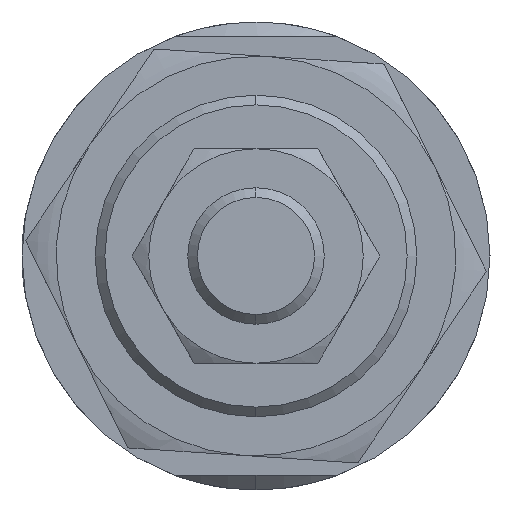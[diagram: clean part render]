
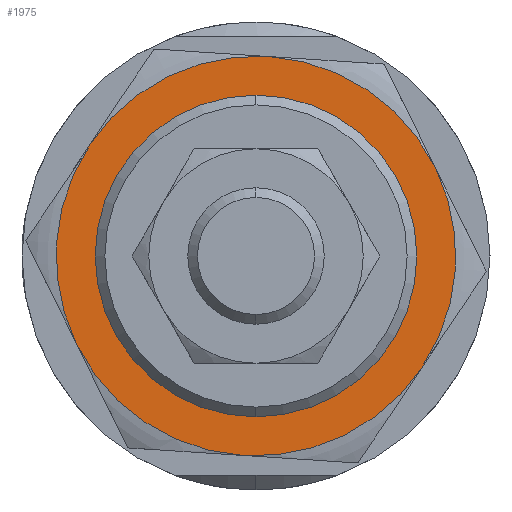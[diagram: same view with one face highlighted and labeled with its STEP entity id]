
A CAD part, left-side view. The second image highlights one B-rep face of the part: STEP entity #1975.
In plain terms, the highlighted planar face has unit normal (-1, 0, 0) as drawn and (0, 0, -1) by its records, which use the part's own axes.
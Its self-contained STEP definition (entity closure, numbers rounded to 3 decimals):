
#36 = VERTEX_POINT ( 'NONE', #1236 ) ;
#57 = CARTESIAN_POINT ( 'NONE',  ( 10.25, -17.754, -5.5 ) ) ;
#95 = CIRCLE ( 'NONE', #2962, 20.5 ) ;
#228 = VERTEX_POINT ( 'NONE', #1532 ) ;
#279 = ORIENTED_EDGE ( 'NONE', *, *, #3238, .F. ) ;
#299 = DIRECTION ( 'NONE',  ( 0., 0., 1. ) ) ;
#435 = FACE_OUTER_BOUND ( 'NONE', #854, .T. ) ;
#499 = DIRECTION ( 'NONE',  ( 1., 0., 0. ) ) ;
#518 = VERTEX_POINT ( 'NONE', #3105 ) ;
#524 = DIRECTION ( 'NONE',  ( 0., 0., 1. ) ) ;
#556 = CARTESIAN_POINT ( 'NONE',  ( 0., 0., -5.5 ) ) ;
#569 = AXIS2_PLACEMENT_3D ( 'NONE', #2388, #299, #937 ) ;
#599 = DIRECTION ( 'NONE',  ( 0., 0., 1. ) ) ;
#674 = ORIENTED_EDGE ( 'NONE', *, *, #723, .T. ) ;
#700 = DIRECTION ( 'NONE',  ( 0., 0., 1. ) ) ;
#723 = EDGE_CURVE ( 'NONE', #518, #1254, #2273, .T. ) ;
#725 = AXIS2_PLACEMENT_3D ( 'NONE', #3452, #3243, #1693 ) ;
#770 = CARTESIAN_POINT ( 'NONE',  ( 0., 0., -5.5 ) ) ;
#774 = CARTESIAN_POINT ( 'NONE',  ( 10.25, 17.754, -5.5 ) ) ;
#826 = AXIS2_PLACEMENT_3D ( 'NONE', #3150, #599, #2837 ) ;
#854 = EDGE_LOOP ( 'NONE', ( #1562, #2086, #3251, #279, #2422, #1284 ) ) ;
#906 = EDGE_CURVE ( 'NONE', #2814, #228, #3403, .T. ) ;
#924 = AXIS2_PLACEMENT_3D ( 'NONE', #1555, #2348, #2458 ) ;
#937 = DIRECTION ( 'NONE',  ( 1., 0., 0. ) ) ;
#979 = CIRCLE ( 'NONE', #569, 20.5 ) ;
#1042 = DIRECTION ( 'NONE',  ( 0., 0., 1. ) ) ;
#1236 = CARTESIAN_POINT ( 'NONE',  ( -20.5, 0., -5.5 ) ) ;
#1254 = VERTEX_POINT ( 'NONE', #2598 ) ;
#1284 = ORIENTED_EDGE ( 'NONE', *, *, #1338, .F. ) ;
#1287 = DIRECTION ( 'NONE',  ( 0., 0., 1. ) ) ;
#1297 = CIRCLE ( 'NONE', #2281, 20.5 ) ;
#1338 = EDGE_CURVE ( 'NONE', #3405, #1344, #1395, .T. ) ;
#1344 = VERTEX_POINT ( 'NONE', #1444 ) ;
#1395 = CIRCLE ( 'NONE', #3077, 20.5 ) ;
#1444 = CARTESIAN_POINT ( 'NONE',  ( -10.25, 17.754, -5.5 ) ) ;
#1466 = CARTESIAN_POINT ( 'NONE',  ( 0., 0., -5.5 ) ) ;
#1532 = CARTESIAN_POINT ( 'NONE',  ( 20.5, 0., -5.5 ) ) ;
#1544 = DIRECTION ( 'NONE',  ( 1., 0., 0. ) ) ;
#1555 = CARTESIAN_POINT ( 'NONE',  ( 0., 0., -5.5 ) ) ;
#1562 = ORIENTED_EDGE ( 'NONE', *, *, #3376, .F. ) ;
#1564 = EDGE_CURVE ( 'NONE', #1254, #518, #2468, .T. ) ;
#1693 = DIRECTION ( 'NONE',  ( 1., 0., 0. ) ) ;
#1815 = CARTESIAN_POINT ( 'NONE',  ( -10.25, -17.754, -5.5 ) ) ;
#1975 = ADVANCED_FACE ( 'NONE', ( #2750, #435 ), #2518, .F. ) ;
#2026 = EDGE_LOOP ( 'NONE', ( #3126, #674 ) ) ;
#2070 = DIRECTION ( 'NONE',  ( 0., 0., 1. ) ) ;
#2075 = AXIS2_PLACEMENT_3D ( 'NONE', #2879, #700, #3203 ) ;
#2086 = ORIENTED_EDGE ( 'NONE', *, *, #906, .F. ) ;
#2273 = CIRCLE ( 'NONE', #924, 15.5 ) ;
#2281 = AXIS2_PLACEMENT_3D ( 'NONE', #770, #1042, #1544 ) ;
#2348 = DIRECTION ( 'NONE',  ( 0., 0., 1. ) ) ;
#2388 = CARTESIAN_POINT ( 'NONE',  ( 0., 0., -5.5 ) ) ;
#2422 = ORIENTED_EDGE ( 'NONE', *, *, #2792, .F. ) ;
#2458 = DIRECTION ( 'NONE',  ( 1., 0., 0. ) ) ;
#2468 = CIRCLE ( 'NONE', #826, 15.5 ) ;
#2518 = PLANE ( 'NONE',  #3396 ) ;
#2527 = DIRECTION ( 'NONE',  ( 1., 0., 0. ) ) ;
#2555 = DIRECTION ( 'NONE',  ( 1., 0., 0. ) ) ;
#2585 = VERTEX_POINT ( 'NONE', #1815 ) ;
#2598 = CARTESIAN_POINT ( 'NONE',  ( 15.5, 0., -5.5 ) ) ;
#2750 = FACE_BOUND ( 'NONE', #2026, .T. ) ;
#2792 = EDGE_CURVE ( 'NONE', #1344, #36, #95, .T. ) ;
#2814 = VERTEX_POINT ( 'NONE', #57 ) ;
#2837 = DIRECTION ( 'NONE',  ( 1., 0., 0. ) ) ;
#2879 = CARTESIAN_POINT ( 'NONE',  ( 0., 0., -5.5 ) ) ;
#2945 = CIRCLE ( 'NONE', #2075, 20.5 ) ;
#2962 = AXIS2_PLACEMENT_3D ( 'NONE', #1466, #524, #2555 ) ;
#3077 = AXIS2_PLACEMENT_3D ( 'NONE', #556, #1287, #2527 ) ;
#3105 = CARTESIAN_POINT ( 'NONE',  ( -15.5, 0., -5.5 ) ) ;
#3126 = ORIENTED_EDGE ( 'NONE', *, *, #1564, .T. ) ;
#3149 = EDGE_CURVE ( 'NONE', #2585, #2814, #2945, .T. ) ;
#3150 = CARTESIAN_POINT ( 'NONE',  ( 0., 0., -5.5 ) ) ;
#3170 = CARTESIAN_POINT ( 'NONE',  ( 0., 0., -5.5 ) ) ;
#3203 = DIRECTION ( 'NONE',  ( 1., 0., 0. ) ) ;
#3238 = EDGE_CURVE ( 'NONE', #36, #2585, #1297, .T. ) ;
#3243 = DIRECTION ( 'NONE',  ( 0., 0., 1. ) ) ;
#3251 = ORIENTED_EDGE ( 'NONE', *, *, #3149, .F. ) ;
#3376 = EDGE_CURVE ( 'NONE', #228, #3405, #979, .T. ) ;
#3396 = AXIS2_PLACEMENT_3D ( 'NONE', #3170, #2070, #499 ) ;
#3403 = CIRCLE ( 'NONE', #725, 20.5 ) ;
#3405 = VERTEX_POINT ( 'NONE', #774 ) ;
#3452 = CARTESIAN_POINT ( 'NONE',  ( 0., 0., -5.5 ) ) ;
